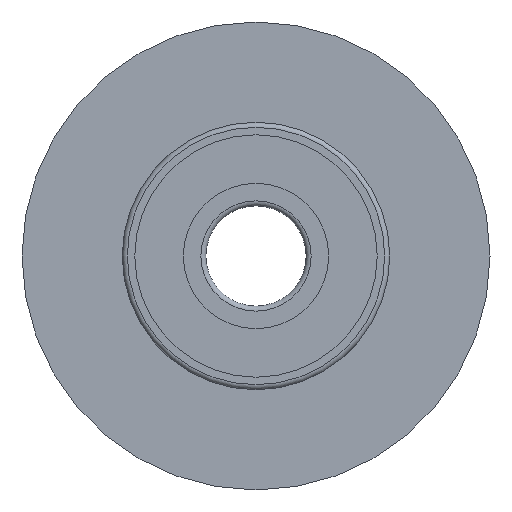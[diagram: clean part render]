
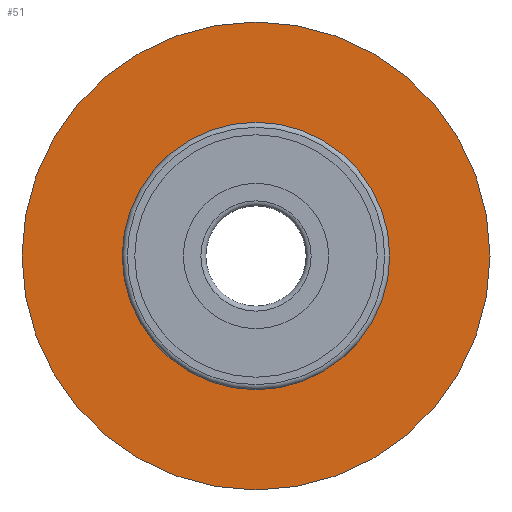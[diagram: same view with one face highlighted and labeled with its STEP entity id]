
A CAD part, left-side view. The second image highlights one B-rep face of the part: STEP entity #51.
In plain terms, the highlighted planar face has unit normal (-1, 0, 0).
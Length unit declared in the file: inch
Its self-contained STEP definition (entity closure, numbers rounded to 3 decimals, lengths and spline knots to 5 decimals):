
#24=CARTESIAN_POINT('',(113.41139,119.47152,0.));
#25=VERTEX_POINT('',#24);
#26=CARTESIAN_POINT('',(113.41139,112.47152,0.));
#27=DIRECTION('',(-1.,0.,0.));
#28=DIRECTION('',(0.,1.,0.));
#29=AXIS2_PLACEMENT_3D('',#26,#27,#28);
#30=CIRCLE('',#29,7.);
#31=EDGE_CURVE('',#25,#25,#30,.T.);
#32=ORIENTED_EDGE('',*,*,#31,.T.);
#33=EDGE_LOOP('',(#32));
#34=FACE_OUTER_BOUND('',#33,.T.);
#35=CARTESIAN_POINT('',(113.41139,116.47152,0.));
#36=VERTEX_POINT('',#35);
#37=CARTESIAN_POINT('',(113.41139,112.47152,0.));
#38=DIRECTION('',(-1.,0.,0.));
#39=DIRECTION('',(0.,1.,0.));
#40=AXIS2_PLACEMENT_3D('',#37,#38,#39);
#41=CIRCLE('',#40,4.);
#42=EDGE_CURVE('',#36,#36,#41,.T.);
#43=ORIENTED_EDGE('',*,*,#42,.F.);
#44=EDGE_LOOP('',(#43));
#45=FACE_BOUND('',#44,.T.);
#46=CARTESIAN_POINT('',(113.41139,117.97152,0.));
#47=DIRECTION('',(-1.,0.,0.));
#48=DIRECTION('',(0.,1.,0.));
#49=AXIS2_PLACEMENT_3D('',#46,#47,#48);
#50=PLANE('',#49);
#51=ADVANCED_FACE('',(#34,#45),#50,.T.);
